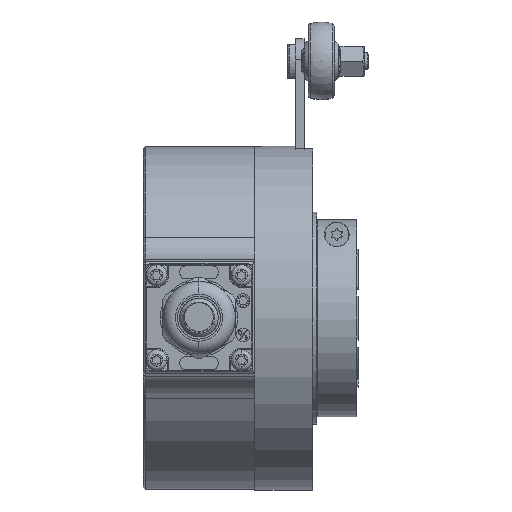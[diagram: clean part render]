
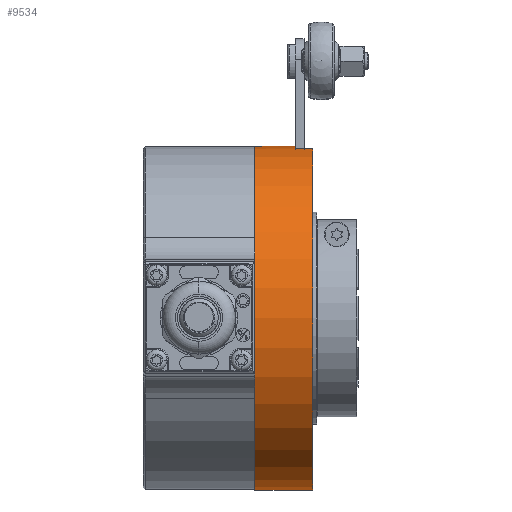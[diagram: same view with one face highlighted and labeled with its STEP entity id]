
A CAD part, top view. The second image highlights one B-rep face of the part: STEP entity #9534.
In plain terms, the highlighted cylindrical face has radius 40.075 mm (diameter 80.15 mm), a partial arc.
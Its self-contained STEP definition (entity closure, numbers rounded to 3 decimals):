
#1718 = AXIS2_PLACEMENT_3D ( 'NONE', #28863, #7609, #17083 ) ;
#2438 = ORIENTED_EDGE ( 'NONE', *, *, #22326, .F. ) ;
#2483 = DIRECTION ( 'NONE',  ( -1., 0., 0. ) ) ;
#3275 = CARTESIAN_POINT ( 'NONE',  ( 13.5, 39.468, 6.95 ) ) ;
#3607 = CIRCLE ( 'NONE', #14039, 40.075 ) ;
#3635 = VERTEX_POINT ( 'NONE', #16961 ) ;
#4717 = DIRECTION ( 'NONE',  ( -1., 0., 0. ) ) ;
#4789 = LINE ( 'NONE', #17052, #7688 ) ;
#4832 = DIRECTION ( 'NONE',  ( -1., 0., 0. ) ) ;
#5141 = EDGE_CURVE ( 'NONE', #3635, #20948, #22706, .T. ) ;
#6456 = CARTESIAN_POINT ( 'NONE',  ( 13.5, -40.075, 0. ) ) ;
#6709 = EDGE_CURVE ( 'NONE', #7469, #14454, #4789, .T. ) ;
#7016 = DIRECTION ( 'NONE',  ( 0., 1., 0. ) ) ;
#7469 = VERTEX_POINT ( 'NONE', #3275 ) ;
#7609 = DIRECTION ( 'NONE',  ( -1., 0., 0. ) ) ;
#7688 = VECTOR ( 'NONE', #2483, 1000. ) ;
#9218 = CARTESIAN_POINT ( 'NONE',  ( 0., 0., 0. ) ) ;
#9352 = VECTOR ( 'NONE', #4717, 1000. ) ;
#9534 = ADVANCED_FACE ( 'NONE', ( #14681 ), #28934, .T. ) ;
#10397 = EDGE_CURVE ( 'NONE', #15603, #7469, #15572, .T. ) ;
#10638 = DIRECTION ( 'NONE',  ( -1., 0., 0. ) ) ;
#10819 = CARTESIAN_POINT ( 'NONE',  ( 9.5, 39.468, 6.95 ) ) ;
#12495 = DIRECTION ( 'NONE',  ( 0., 1., 0. ) ) ;
#12924 = AXIS2_PLACEMENT_3D ( 'NONE', #26753, #10638, #12495 ) ;
#13546 = CARTESIAN_POINT ( 'NONE',  ( -12.775, 40.075, 0. ) ) ;
#14039 = AXIS2_PLACEMENT_3D ( 'NONE', #9218, #4832, #7016 ) ;
#14059 = LINE ( 'NONE', #28305, #9352 ) ;
#14454 = VERTEX_POINT ( 'NONE', #10819 ) ;
#14636 = DIRECTION ( 'NONE',  ( -1., 0., 0. ) ) ;
#14681 = FACE_OUTER_BOUND ( 'NONE', #29193, .T. ) ;
#14861 = ORIENTED_EDGE ( 'NONE', *, *, #5141, .T. ) ;
#15572 = CIRCLE ( 'NONE', #1718, 40.075 ) ;
#15603 = VERTEX_POINT ( 'NONE', #6456 ) ;
#16059 = CARTESIAN_POINT ( 'NONE',  ( 0., 40.075, 0. ) ) ;
#16087 = EDGE_CURVE ( 'NONE', #14454, #3635, #23138, .T. ) ;
#16337 = CARTESIAN_POINT ( 'NONE',  ( 9.5, 0., 0. ) ) ;
#16961 = CARTESIAN_POINT ( 'NONE',  ( 9.5, 40.075, 0. ) ) ;
#17052 = CARTESIAN_POINT ( 'NONE',  ( -12.775, 39.468, 6.95 ) ) ;
#17083 = DIRECTION ( 'NONE',  ( 0., 1., 0. ) ) ;
#18680 = AXIS2_PLACEMENT_3D ( 'NONE', #16337, #14636, #28888 ) ;
#18880 = ORIENTED_EDGE ( 'NONE', *, *, #23059, .F. ) ;
#18972 = ORIENTED_EDGE ( 'NONE', *, *, #10397, .T. ) ;
#20948 = VERTEX_POINT ( 'NONE', #16059 ) ;
#22326 = EDGE_CURVE ( 'NONE', #25894, #20948, #3607, .T. ) ;
#22706 = LINE ( 'NONE', #13546, #24097 ) ;
#22750 = ORIENTED_EDGE ( 'NONE', *, *, #16087, .T. ) ;
#23059 = EDGE_CURVE ( 'NONE', #15603, #25894, #14059, .T. ) ;
#23138 = CIRCLE ( 'NONE', #18680, 40.075 ) ;
#24097 = VECTOR ( 'NONE', #27663, 1000. ) ;
#25894 = VERTEX_POINT ( 'NONE', #30505 ) ;
#26753 = CARTESIAN_POINT ( 'NONE',  ( -12.775, 0., 0. ) ) ;
#27663 = DIRECTION ( 'NONE',  ( -1., 0., 0. ) ) ;
#28305 = CARTESIAN_POINT ( 'NONE',  ( -12.775, -40.075, 0. ) ) ;
#28863 = CARTESIAN_POINT ( 'NONE',  ( 13.5, 0., 0. ) ) ;
#28888 = DIRECTION ( 'NONE',  ( 0., 1., 0. ) ) ;
#28934 = CYLINDRICAL_SURFACE ( 'NONE', #12924, 40.075 ) ;
#29193 = EDGE_LOOP ( 'NONE', ( #18880, #18972, #29532, #22750, #14861, #2438 ) ) ;
#29532 = ORIENTED_EDGE ( 'NONE', *, *, #6709, .T. ) ;
#30505 = CARTESIAN_POINT ( 'NONE',  ( 0., -40.075, 0. ) ) ;
